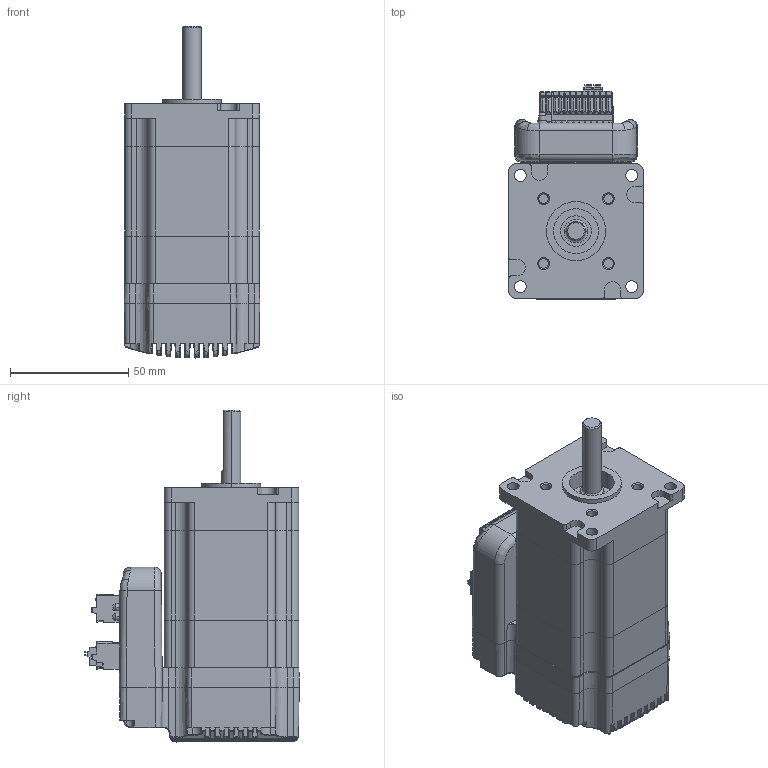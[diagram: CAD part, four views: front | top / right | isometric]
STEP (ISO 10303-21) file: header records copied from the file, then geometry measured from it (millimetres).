
FILE_DESCRIPTION (( 'STEP AP203' ), '1' );
FILE_NAME ('iHSV57-30-10-36.STEP', '2019-10-29T05:49:43', ( 'USER-' ), ( 'MS' ), 'SwSTEP 2.0', 'SolidWorks 2015', '' );
FILE_SCHEMA (( 'CONFIG_CONTROL_DESIGN' ));
Products named in the file (5): 57珨极趙儂旯38mmx遵37mm; 57x18x37一体化上盖8x33扁轴7.5x27法兰25x2法兰底面带M4螺纹孔; 57珨极趙狟裔20mmx遵37mm; iHSV57珨极趙綴裔31.68x52x68.05; iHSV57-30-10-36
Assembly tree (4 placements, depth 2):
  iHSV57-30-10-36
    57珨极趙儂旯38mmx遵37mm
    57x18x37一体化上盖8x33扁轴7.5x27法兰25x2法兰底面带M4螺纹孔
    57珨极趙狟裔20mmx遵37mm
    iHSV57珨极趙綴裔31.68x52x68.05
Bounding box: 57.4 x 90.9 x 140.68 mm (x, y, z)
Volume: 280742.9 mm3; surface area: 93323.2 mm2
Topology: 4 solids, 48 shells, 4009 faces, 10974 edges, 7172 vertices
Faces by surface type: plane 2581, cylinder 1082, bspline 229, cone 115, torus 2
Entity records: 156057 total; most frequent: CARTESIAN_POINT 60757, ORIENTED_EDGE 21924, DIRECTION 15819, EDGE_CURVE 10962, LINE 7343, VECTOR 7343, VERTEX_POINT 7172, EDGE_LOOP 4256
